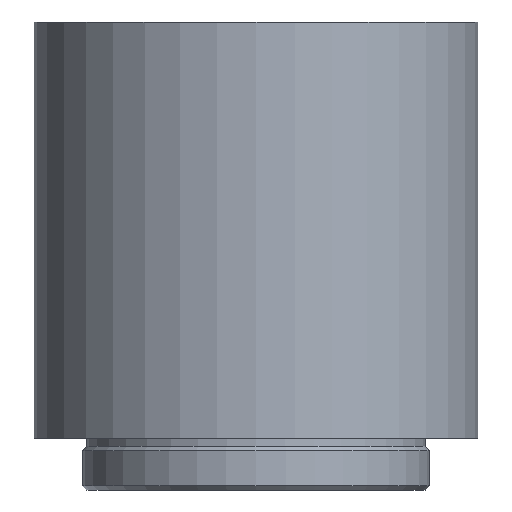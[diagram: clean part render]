
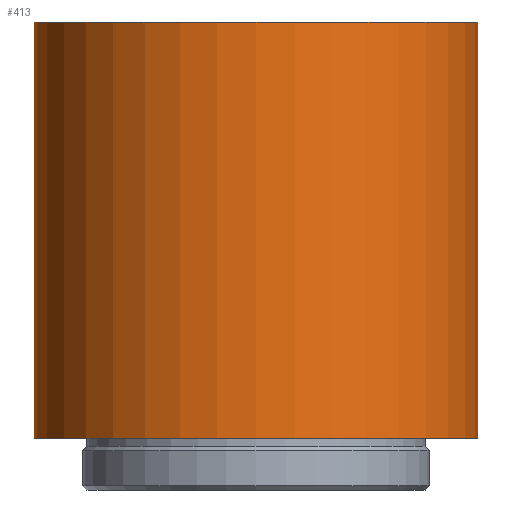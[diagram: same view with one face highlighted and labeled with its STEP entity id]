
A CAD part, front view. The second image highlights one B-rep face of the part: STEP entity #413.
In plain terms, the highlighted cylindrical face has radius 20.32 mm (diameter 40.64 mm), a partial arc.
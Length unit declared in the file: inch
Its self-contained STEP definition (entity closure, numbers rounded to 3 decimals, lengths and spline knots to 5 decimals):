
#38 = DIRECTION ( 'NONE',  ( 0., 0., -1. ) ) ;
#40 = CYLINDRICAL_SURFACE ( 'NONE', #414, 0.8 ) ;
#46 = DIRECTION ( 'NONE',  ( 1., 0., 0. ) ) ;
#58 = VERTEX_POINT ( 'NONE', #175 ) ;
#63 = LINE ( 'NONE', #578, #293 ) ;
#93 = CARTESIAN_POINT ( 'NONE',  ( 0., 0., 0. ) ) ;
#152 = DIRECTION ( 'NONE',  ( 0., 0., 1. ) ) ;
#154 = FACE_OUTER_BOUND ( 'NONE', #183, .T. ) ;
#166 = DIRECTION ( 'NONE',  ( 0., 0., -1. ) ) ;
#175 = CARTESIAN_POINT ( 'NONE',  ( -0.8, 0., 1.5 ) ) ;
#183 = EDGE_LOOP ( 'NONE', ( #368, #295, #548, #232 ) ) ;
#232 = ORIENTED_EDGE ( 'NONE', *, *, #402, .T. ) ;
#262 = DIRECTION ( 'NONE',  ( 0., 0., -1. ) ) ;
#282 = VERTEX_POINT ( 'NONE', #673 ) ;
#289 = AXIS2_PLACEMENT_3D ( 'NONE', #93, #152, #46 ) ;
#293 = VECTOR ( 'NONE', #262, 39.37008 ) ;
#295 = ORIENTED_EDGE ( 'NONE', *, *, #648, .F. ) ;
#327 = CARTESIAN_POINT ( 'NONE',  ( -0.8, 0., 0. ) ) ;
#358 = CIRCLE ( 'NONE', #647, 0.8 ) ;
#368 = ORIENTED_EDGE ( 'NONE', *, *, #599, .F. ) ;
#377 = CARTESIAN_POINT ( 'NONE',  ( 0.8, 0., 0. ) ) ;
#394 = EDGE_CURVE ( 'NONE', #58, #533, #63, .T. ) ;
#402 = EDGE_CURVE ( 'Defeatured_0_1+Defeatured_0_0+Defeatured_0_0+Defeatured_0_0', #533, #549, #416, .T. ) ;
#407 = CARTESIAN_POINT ( 'NONE',  ( 0., 0., 1.5 ) ) ;
#413 = ADVANCED_FACE ( 'Defeatured_0_1', ( #154 ), #40, .T. ) ;
#414 = AXIS2_PLACEMENT_3D ( 'NONE', #407, #38, #425 ) ;
#416 = CIRCLE ( 'NONE', #289, 0.8 ) ;
#425 = DIRECTION ( 'NONE',  ( -1., 0., 0. ) ) ;
#447 = CARTESIAN_POINT ( 'NONE',  ( 0., 0., 1.5 ) ) ;
#483 = CARTESIAN_POINT ( 'NONE',  ( 0.8, 0., 1.5 ) ) ;
#484 = VECTOR ( 'NONE', #166, 39.37008 ) ;
#533 = VERTEX_POINT ( 'NONE', #327 ) ;
#548 = ORIENTED_EDGE ( 'NONE', *, *, #394, .T. ) ;
#549 = VERTEX_POINT ( 'NONE', #377 ) ;
#561 = DIRECTION ( 'NONE',  ( 0., 0., 1. ) ) ;
#572 = LINE ( 'NONE', #483, #484 ) ;
#578 = CARTESIAN_POINT ( 'NONE',  ( -0.8, 0., 1.5 ) ) ;
#599 = EDGE_CURVE ( 'NONE', #282, #549, #572, .T. ) ;
#610 = DIRECTION ( 'NONE',  ( 1., 0., 0. ) ) ;
#647 = AXIS2_PLACEMENT_3D ( 'NONE', #447, #561, #610 ) ;
#648 = EDGE_CURVE ( 'Defeatured_0_2+Defeatured_0_1+Defeatured_0_1+Defeatured_0_1', #58, #282, #358, .T. ) ;
#673 = CARTESIAN_POINT ( 'NONE',  ( 0.8, 0., 1.5 ) ) ;
